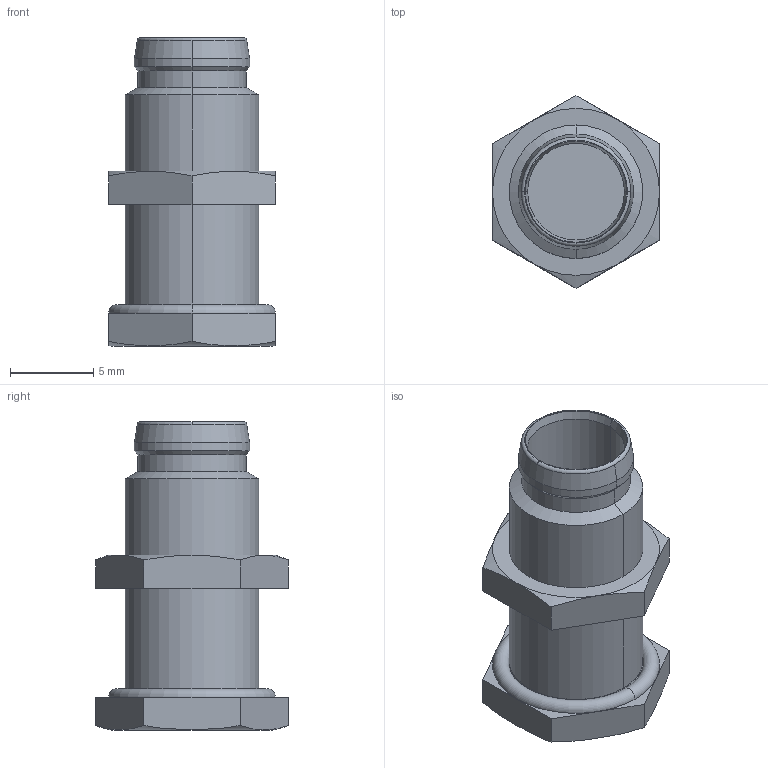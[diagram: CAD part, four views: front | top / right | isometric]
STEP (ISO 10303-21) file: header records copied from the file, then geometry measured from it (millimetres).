
FILE_DESCRIPTION (( 'STEP AP203' ), '1' );
FILE_NAME ('MFS_F.step', '2012-12-27T18:33:45', ( 'Turck User' ), ( '' ), 'SwSTEP 2.0', 'SolidWorks 2012', '' );
FILE_SCHEMA (( 'CONFIG_CONTROL_DESIGN' ));
Length unit declared in the file: millimetre
Products named in the file (1): MFS_F
Bounding box: 10 x 11.55 x 18.5 mm (x, y, z)
Volume: 857.3 mm3; surface area: 862.4 mm2
Topology: 1 solids, 2 shells, 61 faces, 137 edges, 83 vertices
Faces by surface type: plane 25, cone 16, cylinder 10, torus 8, sphere 2
Entity records: 1759 total; most frequent: CARTESIAN_POINT 354, DIRECTION 298, ORIENTED_EDGE 264, EDGE_CURVE 132, AXIS2_PLACEMENT_3D 124, VERTEX_POINT 80, EDGE_LOOP 66, CIRCLE 62
